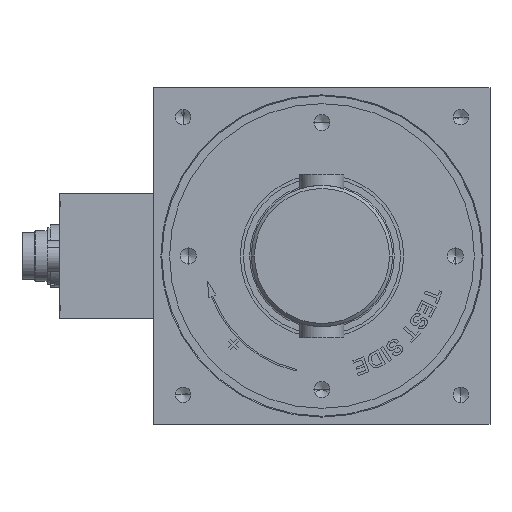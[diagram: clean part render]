
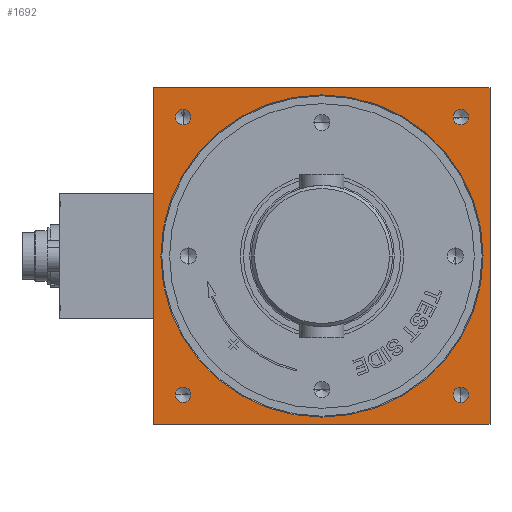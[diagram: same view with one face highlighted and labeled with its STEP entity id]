
A CAD part, left-side view. The second image highlights one B-rep face of the part: STEP entity #1692.
In plain terms, the highlighted planar face has unit normal (-1, 0, 0).
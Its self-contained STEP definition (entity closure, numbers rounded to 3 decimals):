
#1692=ADVANCED_FACE('',(#3937,#3938,#3939,#3940,#3941,#3942),#3943,.T.);
#3937=FACE_OUTER_BOUND('',#7067,.T.);
#3938=FACE_BOUND('',#7068,.T.);
#3939=FACE_BOUND('',#7069,.T.);
#3940=FACE_BOUND('',#7070,.T.);
#3941=FACE_BOUND('',#7071,.T.);
#3942=FACE_BOUND('',#7072,.T.);
#3943=PLANE('',#7073);
#7067=EDGE_LOOP('',(#12344,#12345,#12346,#12347));
#7068=EDGE_LOOP('',(#12348,#12349));
#7069=EDGE_LOOP('',(#12350,#12351));
#7070=EDGE_LOOP('',(#12352,#12353));
#7071=EDGE_LOOP('',(#12354,#12355));
#7072=EDGE_LOOP('',(#12356,#12357));
#7073=AXIS2_PLACEMENT_3D('',#12358,#12359,#12360);
#12344=ORIENTED_EDGE('',*,*,#18250,.F.);
#12345=ORIENTED_EDGE('',*,*,#17732,.T.);
#12346=ORIENTED_EDGE('',*,*,#18251,.T.);
#12347=ORIENTED_EDGE('',*,*,#18210,.F.);
#12348=ORIENTED_EDGE('',*,*,#18252,.T.);
#12349=ORIENTED_EDGE('',*,*,#17106,.T.);
#12350=ORIENTED_EDGE('',*,*,#18253,.T.);
#12351=ORIENTED_EDGE('',*,*,#17114,.T.);
#12352=ORIENTED_EDGE('',*,*,#18254,.T.);
#12353=ORIENTED_EDGE('',*,*,#17122,.T.);
#12354=ORIENTED_EDGE('',*,*,#18255,.T.);
#12355=ORIENTED_EDGE('',*,*,#17130,.T.);
#12356=ORIENTED_EDGE('',*,*,#18248,.F.);
#12357=ORIENTED_EDGE('',*,*,#17174,.F.);
#12358=CARTESIAN_POINT('',(-35.0,53.5,0.0));
#12359=DIRECTION('',(-1.0,0.,0.0));
#12360=DIRECTION('',(0.,1.0,0.0));
#17106=EDGE_CURVE('',#20443,#20440,#20444,.T.);
#17114=EDGE_CURVE('',#20456,#20453,#20457,.T.);
#17122=EDGE_CURVE('',#20469,#20466,#20470,.T.);
#17130=EDGE_CURVE('',#20482,#20479,#20483,.T.);
#17174=EDGE_CURVE('',#20548,#20551,#20552,.T.);
#17732=EDGE_CURVE('',#21386,#21390,#21392,.T.);
#18210=EDGE_CURVE('',#22079,#22081,#22082,.T.);
#18248=EDGE_CURVE('',#20551,#20548,#22120,.T.);
#18250=EDGE_CURVE('',#21386,#22079,#22122,.T.);
#18251=EDGE_CURVE('',#21390,#22081,#22123,.T.);
#18252=EDGE_CURVE('',#20440,#20443,#22124,.T.);
#18253=EDGE_CURVE('',#20453,#20456,#22125,.T.);
#18254=EDGE_CURVE('',#20466,#20469,#22126,.T.);
#18255=EDGE_CURVE('',#20479,#20482,#22127,.T.);
#20440=VERTEX_POINT('',#25258);
#20443=VERTEX_POINT('',#25262);
#20444=CIRCLE('',#25263,2.459);
#20453=VERTEX_POINT('',#25275);
#20456=VERTEX_POINT('',#25279);
#20457=CIRCLE('',#25280,2.459);
#20466=VERTEX_POINT('',#25292);
#20469=VERTEX_POINT('',#25296);
#20470=CIRCLE('',#25297,2.459);
#20479=VERTEX_POINT('',#25309);
#20482=VERTEX_POINT('',#25313);
#20483=CIRCLE('',#25314,2.459);
#20548=VERTEX_POINT('',#25398);
#20551=VERTEX_POINT('',#25402);
#20552=CIRCLE('',#25403,51.3);
#21386=VERTEX_POINT('',#26790);
#21390=VERTEX_POINT('',#26796);
#21392=LINE('',#26799,#26800);
#22079=VERTEX_POINT('',#28095);
#22081=VERTEX_POINT('',#28098);
#22082=LINE('',#28099,#28100);
#22120=CIRCLE('',#28139,51.3);
#22122=LINE('',#28141,#28142);
#22123=LINE('',#28143,#28144);
#22124=CIRCLE('',#28145,2.459);
#22125=CIRCLE('',#28146,2.459);
#22126=CIRCLE('',#28147,2.459);
#22127=CIRCLE('',#28148,2.459);
#25258=CARTESIAN_POINT('',(-35.0,44.191,46.656));
#25262=CARTESIAN_POINT('',(-35.0,44.191,41.739));
#25263=AXIS2_PLACEMENT_3D('',#32322,#32323,#32324);
#25275=CARTESIAN_POINT('',(-35.0,-46.656,44.191));
#25279=CARTESIAN_POINT('',(-35.,-41.739,44.191));
#25280=AXIS2_PLACEMENT_3D('',#32332,#32333,#32334);
#25292=CARTESIAN_POINT('',(-35.0,-44.191,-46.656));
#25296=CARTESIAN_POINT('',(-35.,-44.191,-41.739));
#25297=AXIS2_PLACEMENT_3D('',#32342,#32343,#32344);
#25309=CARTESIAN_POINT('',(-35.0,46.656,-44.191));
#25313=CARTESIAN_POINT('',(-35.,41.739,-44.191));
#25314=AXIS2_PLACEMENT_3D('',#32352,#32353,#32354);
#25398=CARTESIAN_POINT('',(-35.,-51.3,0.));
#25402=CARTESIAN_POINT('',(-35.0,51.3,0.));
#25403=AXIS2_PLACEMENT_3D('',#32414,#32415,#32416);
#26790=CARTESIAN_POINT('',(-35.0,53.5,53.5));
#26796=CARTESIAN_POINT('',(-35.0,53.5,-53.5));
#26799=CARTESIAN_POINT('',(-35.0,53.5,0.0));
#26800=VECTOR('',#33165,107.0);
#28095=CARTESIAN_POINT('',(-35.0,-53.5,53.5));
#28098=CARTESIAN_POINT('',(-35.0,-53.5,-53.5));
#28099=CARTESIAN_POINT('',(-35.0,-53.5,0.0));
#28100=VECTOR('',#33465,107.0);
#28139=AXIS2_PLACEMENT_3D('',#33515,#33516,#33517);
#28141=CARTESIAN_POINT('',(-35.0,53.5,53.5));
#28142=VECTOR('',#33518,107.0);
#28143=CARTESIAN_POINT('',(-35.0,-49.5,-53.5));
#28144=VECTOR('',#33519,107.0);
#28145=AXIS2_PLACEMENT_3D('',#33520,#33521,#33522);
#28146=AXIS2_PLACEMENT_3D('',#33523,#33524,#33525);
#28147=AXIS2_PLACEMENT_3D('',#33526,#33527,#33528);
#28148=AXIS2_PLACEMENT_3D('',#33529,#33530,#33531);
#32322=CARTESIAN_POINT('',(-35.0,44.191,44.198));
#32323=DIRECTION('',(1.0,0.,-0.0));
#32324=DIRECTION('',(0.0,0.0,1.0));
#32332=CARTESIAN_POINT('',(-35.,-44.198,44.191));
#32333=DIRECTION('',(1.0,0.,0.));
#32334=DIRECTION('',(0.,-1.0,0.));
#32342=CARTESIAN_POINT('',(-35.,-44.191,-44.198));
#32343=DIRECTION('',(1.0,0.,0.));
#32344=DIRECTION('',(0.0,0.,-1.0));
#32352=CARTESIAN_POINT('',(-35.,44.198,-44.191));
#32353=DIRECTION('',(1.0,0.,0.));
#32354=DIRECTION('',(0.0,1.0,0.));
#32414=CARTESIAN_POINT('',(-35.,0.,0.0));
#32415=DIRECTION('',(-1.0,0.,0.0));
#32416=DIRECTION('',(0.,-1.0,0.0));
#33165=DIRECTION('',(0.0,0.0,-1.0));
#33465=DIRECTION('',(0.0,0.0,-1.0));
#33515=CARTESIAN_POINT('',(-35.,0.,0.0));
#33516=DIRECTION('',(-1.0,0.,0.0));
#33517=DIRECTION('',(0.,-1.0,0.0));
#33518=DIRECTION('',(0.,-1.0,0.0));
#33519=DIRECTION('',(0.,-1.0,0.0));
#33520=CARTESIAN_POINT('',(-35.0,44.191,44.198));
#33521=DIRECTION('',(1.0,0.,-0.0));
#33522=DIRECTION('',(0.0,0.0,1.0));
#33523=CARTESIAN_POINT('',(-35.,-44.198,44.191));
#33524=DIRECTION('',(1.0,0.,0.));
#33525=DIRECTION('',(0.,-1.0,0.));
#33526=CARTESIAN_POINT('',(-35.,-44.191,-44.198));
#33527=DIRECTION('',(1.0,0.,0.));
#33528=DIRECTION('',(0.0,0.,-1.0));
#33529=CARTESIAN_POINT('',(-35.,44.198,-44.191));
#33530=DIRECTION('',(1.0,0.,0.));
#33531=DIRECTION('',(0.0,1.0,0.));
